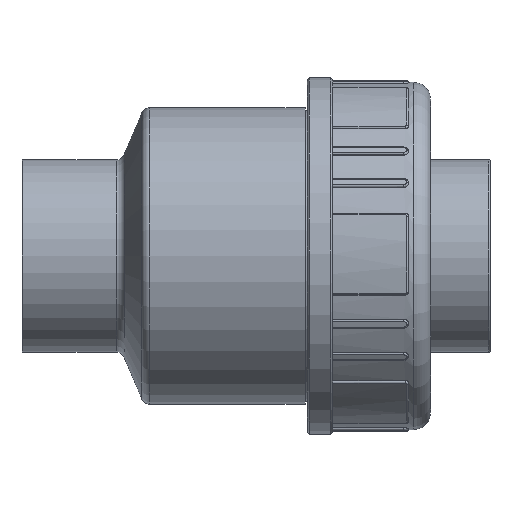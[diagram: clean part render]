
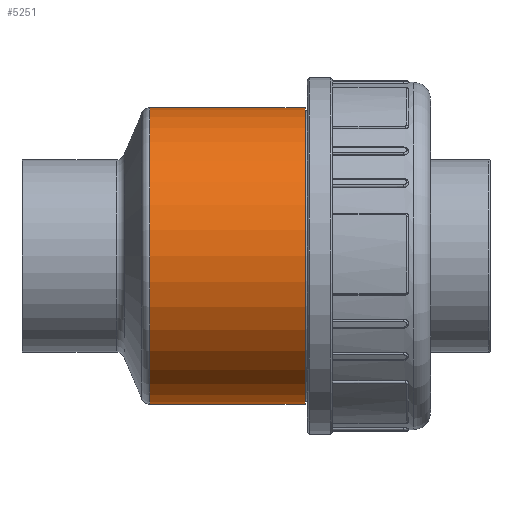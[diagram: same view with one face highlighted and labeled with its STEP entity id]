
A CAD part, left-side view. The second image highlights one B-rep face of the part: STEP entity #5251.
In plain terms, the highlighted cylindrical face has radius 69.75 mm (diameter 139.5 mm), a full revolution.
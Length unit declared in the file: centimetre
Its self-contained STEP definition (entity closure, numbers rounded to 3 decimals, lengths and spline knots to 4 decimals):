
#227=FACE_BOUND('',#1228,.T.);
#228=FACE_BOUND('',#1229,.T.);
#904=FACE_OUTER_BOUND('',#1227,.T.);
#1227=EDGE_LOOP('',(#3588));
#1228=EDGE_LOOP('',(#3589));
#1229=EDGE_LOOP('',(#3590));
#1534=B_SPLINE_CURVE_WITH_KNOTS('',3,(#8176,#8177,#8178,#8179,#8180,#8181,
#8182,#8183,#8184,#8185,#8186,#8187,#8188,#8189,#8190,#8191,#8192,#8193),
 .UNSPECIFIED.,.T.,.F.,(4,1,1,1,1,1,1,1,1,1,1,1,1,1,1,4),(-13.3893,
-12.4329,-11.4765,-10.5202,-9.5638,
-8.6074,-7.651,-7.0134,-6.3759,
-5.7383,-4.4631,-3.8255,-2.8691,-1.9128,
-0.9564,0.),.UNSPECIFIED.);
#1770=CIRCLE('',#5660,6.975);
#1773=CIRCLE('',#5665,6.975);
#2098=VERTEX_POINT('',#8165);
#2101=VERTEX_POINT('',#8173);
#2102=VERTEX_POINT('',#8175);
#2652=EDGE_CURVE('',#2098,#2098,#1770,.T.);
#2655=EDGE_CURVE('',#2101,#2101,#1773,.T.);
#2656=EDGE_CURVE('',#2102,#2102,#1534,.T.);
#3588=ORIENTED_EDGE('',*,*,#2655,.T.);
#3589=ORIENTED_EDGE('',*,*,#2656,.F.);
#3590=ORIENTED_EDGE('',*,*,#2652,.F.);
#4776=CYLINDRICAL_SURFACE('',#5664,6.975);
#5251=ADVANCED_FACE('',(#904,#227,#228),#4776,.T.);
#5660=AXIS2_PLACEMENT_3D('',#8166,#6421,#6422);
#5664=AXIS2_PLACEMENT_3D('',#8172,#6429,#6430);
#5665=AXIS2_PLACEMENT_3D('',#8174,#6431,#6432);
#6421=DIRECTION('center_axis',(0.,1.,0.));
#6422=DIRECTION('ref_axis',(1.,0.,0.));
#6429=DIRECTION('center_axis',(0.,1.,0.));
#6430=DIRECTION('ref_axis',(-1.,0.,0.));
#6431=DIRECTION('center_axis',(0.,1.,0.));
#6432=DIRECTION('ref_axis',(-1.,0.,0.));
#8165=CARTESIAN_POINT('',(-6.975,4.5612,0.));
#8166=CARTESIAN_POINT('Origin',(0.,4.5612,
0.));
#8172=CARTESIAN_POINT('Origin',(0.,-0.8,
0.));
#8173=CARTESIAN_POINT('',(6.975,-2.745,0.));
#8174=CARTESIAN_POINT('Origin',(0.,-2.745,0.));
#8175=CARTESIAN_POINT('',(6.6105,0.,2.2254));
#8176=CARTESIAN_POINT('Ctrl Pts',(6.6103,0.,
2.2254));
#8177=CARTESIAN_POINT('Ctrl Pts',(6.6103,-0.3362,2.2254));
#8178=CARTESIAN_POINT('Ctrl Pts',(6.6655,-1.0086,2.07));
#8179=CARTESIAN_POINT('Ctrl Pts',(6.8417,-1.8035,1.4365));
#8180=CARTESIAN_POINT('Ctrl Pts',(6.9804,-2.2531,0.5174));
#8181=CARTESIAN_POINT('Ctrl Pts',(6.9806,-2.253,-0.5174));
#8182=CARTESIAN_POINT('Ctrl Pts',(6.8414,-1.8037,-1.4365));
#8183=CARTESIAN_POINT('Ctrl Pts',(6.6854,-1.0964,-1.9994));
#8184=CARTESIAN_POINT('Ctrl Pts',(6.6079,-0.3407,-2.2335));
#8185=CARTESIAN_POINT('Ctrl Pts',(6.6077,0.3406,-2.2333));
#8186=CARTESIAN_POINT('Ctrl Pts',(6.6969,1.2049,-1.9667));
#8187=CARTESIAN_POINT('Ctrl Pts',(6.8651,1.8792,-1.3421));
#8188=CARTESIAN_POINT('Ctrl Pts',(6.9803,2.2527,-0.4019));
#8189=CARTESIAN_POINT('Ctrl Pts',(6.9805,2.2532,0.5171));
#8190=CARTESIAN_POINT('Ctrl Pts',(6.8416,1.8034,1.4367));
#8191=CARTESIAN_POINT('Ctrl Pts',(6.6655,1.0086,2.07));
#8192=CARTESIAN_POINT('Ctrl Pts',(6.6103,0.3362,2.2254));
#8193=CARTESIAN_POINT('Ctrl Pts',(6.6103,0.,
2.2254));
